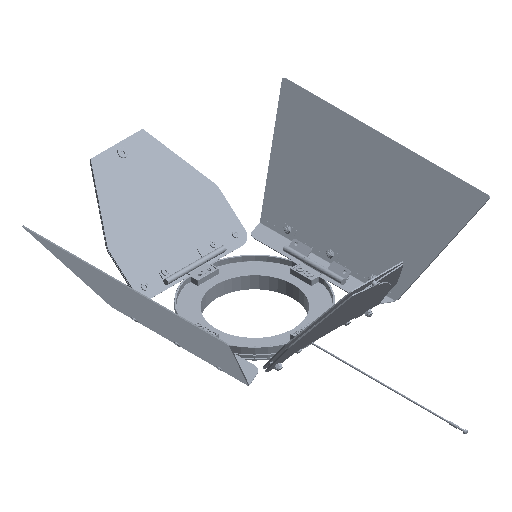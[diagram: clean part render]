
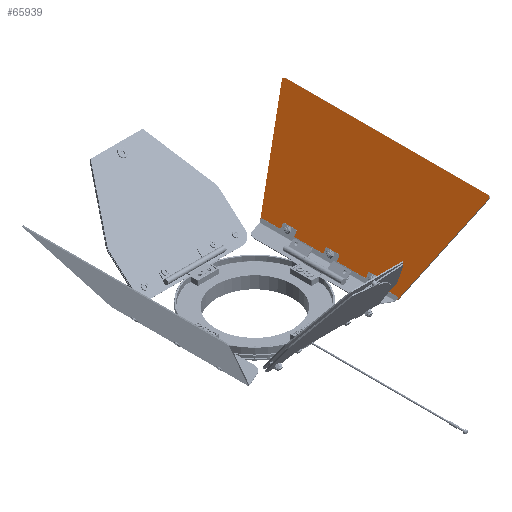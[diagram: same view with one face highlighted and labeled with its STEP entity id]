
A CAD part, isometric view. The second image highlights one B-rep face of the part: STEP entity #65939.
In plain terms, the highlighted planar face has unit normal (-0.805, 0, 0.593) as drawn and (0, -0.866, 0.5) by its records, which use the part's own axes.
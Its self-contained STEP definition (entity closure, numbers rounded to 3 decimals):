
#1660 = VERTEX_POINT ( 'NONE', #62052 ) ;
#3552 = ORIENTED_EDGE ( 'NONE', *, *, #5040, .F. ) ;
#4073 = ORIENTED_EDGE ( 'NONE', *, *, #33344, .T. ) ;
#4165 = ORIENTED_EDGE ( 'NONE', *, *, #61461, .T. ) ;
#4322 = CARTESIAN_POINT ( 'NONE',  ( 72.557, 20.619, 1.891 ) ) ;
#4422 = CARTESIAN_POINT ( 'NONE',  ( 45., 21.991, 4.267 ) ) ;
#4829 = CARTESIAN_POINT ( 'NONE',  ( -45., 22.791, 5.653 ) ) ;
#5040 = EDGE_CURVE ( 'NONE', #42749, #20303, #23721, .T. ) ;
#5266 = DIRECTION ( 'NONE',  ( 0., -0.866, 0.5 ) ) ;
#5385 = DIRECTION ( 'NONE',  ( 0., -0.866, 0.5 ) ) ;
#5713 = AXIS2_PLACEMENT_3D ( 'NONE', #63030, #63316, #30984 ) ;
#5833 = VERTEX_POINT ( 'NONE', #13036 ) ;
#6757 = DIRECTION ( 'NONE',  ( 0., -0.866, 0.5 ) ) ;
#8063 = FACE_BOUND ( 'NONE', #44793, .T. ) ;
#8556 = CIRCLE ( 'NONE', #84248, 1. ) ;
#8728 = ORIENTED_EDGE ( 'NONE', *, *, #64325, .T. ) ;
#9680 = AXIS2_PLACEMENT_3D ( 'NONE', #33356, #6757, #40046 ) ;
#9907 = DIRECTION ( 'NONE',  ( 0., -0.5, -0.866 ) ) ;
#10757 = VERTEX_POINT ( 'NONE', #4322 ) ;
#12202 = EDGE_LOOP ( 'NONE', ( #50568, #80840 ) ) ;
#13036 = CARTESIAN_POINT ( 'NONE',  ( -107.139, 71.791, 90.523 ) ) ;
#13554 = DIRECTION ( 'NONE',  ( 0., -0.866, 0.5 ) ) ;
#14060 = DIRECTION ( 'NONE',  ( -0.344, -0.47, -0.813 ) ) ;
#14374 = VECTOR ( 'NONE', #40069, 1000. ) ;
#16400 = CARTESIAN_POINT ( 'NONE',  ( 0., 23.591, 7.038 ) ) ;
#17193 = CARTESIAN_POINT ( 'NONE',  ( -71.618, 20.291, 1.323 ) ) ;
#17847 = ORIENTED_EDGE ( 'NONE', *, *, #74285, .T. ) ;
#18415 = CIRCLE ( 'NONE', #82977, 2. ) ;
#18757 = EDGE_LOOP ( 'NONE', ( #19878, #43091, #68129, #57714, #8728, #69192, #4073, #4165, #19954, #17847 ) ) ;
#19701 = CIRCLE ( 'NONE', #83357, 1.6 ) ;
#19878 = ORIENTED_EDGE ( 'NONE', *, *, #21134, .T. ) ;
#19954 = ORIENTED_EDGE ( 'NONE', *, *, #66790, .F. ) ;
#20297 = DIRECTION ( 'NONE',  ( 1., 0., 0. ) ) ;
#20303 = VERTEX_POINT ( 'NONE', #49824 ) ;
#21134 = EDGE_CURVE ( 'NONE', #61171, #70301, #64392, .T. ) ;
#21210 = VERTEX_POINT ( 'NONE', #16400 ) ;
#21459 = CARTESIAN_POINT ( 'NONE',  ( 109.017, 70.447, 88.196 ) ) ;
#21749 = CARTESIAN_POINT ( 'NONE',  ( 109.139, 70.791, 88.791 ) ) ;
#22283 = CARTESIAN_POINT ( 'NONE',  ( -72.557, 20.619, 1.891 ) ) ;
#22559 = VECTOR ( 'NONE', #74884, 1000. ) ;
#23468 = DIRECTION ( 'NONE',  ( 1., 0., 0. ) ) ;
#23721 = CIRCLE ( 'NONE', #60017, 1.6 ) ;
#24348 = EDGE_CURVE ( 'NONE', #26623, #54709, #37123, .T. ) ;
#24433 = DIRECTION ( 'NONE',  ( 1., 0., 0. ) ) ;
#24563 = AXIS2_PLACEMENT_3D ( 'NONE', #57693, #83735, #24433 ) ;
#24681 = DIRECTION ( 'NONE',  ( 0., -0.5, -0.866 ) ) ;
#26424 = CARTESIAN_POINT ( 'NONE',  ( -71.618, 20.791, 2.189 ) ) ;
#26623 = VERTEX_POINT ( 'NONE', #77660 ) ;
#26846 = FACE_BOUND ( 'NONE', #12202, .T. ) ;
#27252 = EDGE_LOOP ( 'NONE', ( #3552, #81965 ) ) ;
#28751 = CARTESIAN_POINT ( 'NONE',  ( 0., 22.791, 5.653 ) ) ;
#28866 = AXIS2_PLACEMENT_3D ( 'NONE', #83821, #83255, #56642 ) ;
#29147 = DIRECTION ( 'NONE',  ( 1., 0., 0. ) ) ;
#30212 = VECTOR ( 'NONE', #14060, 1000. ) ;
#30778 = AXIS2_PLACEMENT_3D ( 'NONE', #26424, #65790, #33157 ) ;
#30984 = DIRECTION ( 'NONE',  ( 0., 0.5, 0.866 ) ) ;
#31153 = EDGE_CURVE ( 'NONE', #76799, #10757, #55211, .T. ) ;
#33157 = DIRECTION ( 'NONE',  ( 0., -0.5, -0.866 ) ) ;
#33344 = EDGE_CURVE ( 'NONE', #5833, #46505, #18415, .T. ) ;
#33356 = CARTESIAN_POINT ( 'NONE',  ( 45., 22.791, 5.653 ) ) ;
#33571 = EDGE_CURVE ( 'NONE', #5833, #1660, #38629, .T. ) ;
#34541 = CIRCLE ( 'NONE', #71476, 2. ) ;
#35218 = AXIS2_PLACEMENT_3D ( 'NONE', #53851, #13554, #20297 ) ;
#35448 = DIRECTION ( 'NONE',  ( 0., -0.5, -0.866 ) ) ;
#36393 = EDGE_CURVE ( 'NONE', #70301, #10757, #8556, .T. ) ;
#37123 = CIRCLE ( 'NONE', #9680, 1.6 ) ;
#37203 = DIRECTION ( 'NONE',  ( 0., -0.866, 0.5 ) ) ;
#37732 = ORIENTED_EDGE ( 'NONE', *, *, #24348, .F. ) ;
#38629 = LINE ( 'NONE', #59011, #14374 ) ;
#39966 = DIRECTION ( 'NONE',  ( 1., 0., 0. ) ) ;
#40046 = DIRECTION ( 'NONE',  ( 0., 0.5, 0.866 ) ) ;
#40069 = DIRECTION ( 'NONE',  ( 1., 0., 0. ) ) ;
#40446 = EDGE_CURVE ( 'NONE', #21210, #55182, #19701, .T. ) ;
#40449 = VERTEX_POINT ( 'NONE', #22283 ) ;
#41277 = DIRECTION ( 'NONE',  ( 1., 0., 0. ) ) ;
#42749 = VERTEX_POINT ( 'NONE', #60522 ) ;
#42803 = DIRECTION ( 'NONE',  ( 0., -0.866, 0.5 ) ) ;
#43091 = ORIENTED_EDGE ( 'NONE', *, *, #36393, .T. ) ;
#43307 = CARTESIAN_POINT ( 'NONE',  ( -107.139, 70.791, 88.791 ) ) ;
#43556 = FACE_OUTER_BOUND ( 'NONE', #18757, .T. ) ;
#44345 = EDGE_CURVE ( 'NONE', #76799, #58231, #77827, .T. ) ;
#44793 = EDGE_LOOP ( 'NONE', ( #52511, #37732 ) ) ;
#45834 = CARTESIAN_POINT ( 'NONE',  ( 71.618, 20.791, 2.189 ) ) ;
#46505 = VERTEX_POINT ( 'NONE', #68408 ) ;
#47341 = CARTESIAN_POINT ( 'NONE',  ( 57.327, -0.196, -34.161 ) ) ;
#49824 = CARTESIAN_POINT ( 'NONE',  ( -45., 23.591, 7.038 ) ) ;
#49874 = CARTESIAN_POINT ( 'NONE',  ( -45., 22.791, 5.653 ) ) ;
#50568 = ORIENTED_EDGE ( 'NONE', *, *, #63281, .F. ) ;
#52511 = ORIENTED_EDGE ( 'NONE', *, *, #85154, .F. ) ;
#53851 = CARTESIAN_POINT ( 'NONE',  ( 107.139, 70.791, 88.791 ) ) ;
#54100 = CARTESIAN_POINT ( 'NONE',  ( 0., 20.291, 1.323 ) ) ;
#54709 = VERTEX_POINT ( 'NONE', #4422 ) ;
#55182 = VERTEX_POINT ( 'NONE', #58020 ) ;
#55211 = LINE ( 'NONE', #47341, #30212 ) ;
#56611 = DIRECTION ( 'NONE',  ( 0., -0.866, 0.5 ) ) ;
#56642 = DIRECTION ( 'NONE',  ( 0., -0.5, -0.866 ) ) ;
#57693 = CARTESIAN_POINT ( 'NONE',  ( 0., 10.291, -15.998 ) ) ;
#57714 = ORIENTED_EDGE ( 'NONE', *, *, #44345, .T. ) ;
#58017 = CIRCLE ( 'NONE', #72259, 1.6 ) ;
#58020 = CARTESIAN_POINT ( 'NONE',  ( 0., 21.991, 4.267 ) ) ;
#58231 = VERTEX_POINT ( 'NONE', #21749 ) ;
#58376 = AXIS2_PLACEMENT_3D ( 'NONE', #82830, #42803, #29147 ) ;
#58612 = CARTESIAN_POINT ( 'NONE',  ( -107.139, 70.791, 88.791 ) ) ;
#58963 = DIRECTION ( 'NONE',  ( 0., -0.5, -0.866 ) ) ;
#59011 = CARTESIAN_POINT ( 'NONE',  ( -110., 71.791, 90.523 ) ) ;
#60017 = AXIS2_PLACEMENT_3D ( 'NONE', #49874, #56611, #9907 ) ;
#60210 = VECTOR ( 'NONE', #41277, 1000. ) ;
#60215 = CIRCLE ( 'NONE', #35218, 2. ) ;
#60522 = CARTESIAN_POINT ( 'NONE',  ( -45., 21.991, 4.267 ) ) ;
#61171 = VERTEX_POINT ( 'NONE', #17193 ) ;
#61354 = CIRCLE ( 'NONE', #28866, 1.6 ) ;
#61461 = EDGE_CURVE ( 'NONE', #46505, #65422, #34541, .T. ) ;
#62052 = CARTESIAN_POINT ( 'NONE',  ( 107.139, 71.791, 90.523 ) ) ;
#63030 = CARTESIAN_POINT ( 'NONE',  ( 45., 22.791, 5.653 ) ) ;
#63281 = EDGE_CURVE ( 'NONE', #55182, #21210, #61354, .T. ) ;
#63316 = DIRECTION ( 'NONE',  ( 0., -0.866, 0.5 ) ) ;
#64325 = EDGE_CURVE ( 'NONE', #58231, #1660, #60215, .T. ) ;
#64392 = LINE ( 'NONE', #54100, #60210 ) ;
#65199 = CIRCLE ( 'NONE', #5713, 1.6 ) ;
#65332 = DIRECTION ( 'NONE',  ( 0., -0.866, 0.5 ) ) ;
#65422 = VERTEX_POINT ( 'NONE', #84674 ) ;
#65790 = DIRECTION ( 'NONE',  ( 0., -0.866, 0.5 ) ) ;
#65939 = ADVANCED_FACE ( 'NONE', ( #73803, #8063, #26846, #43556 ), #84300, .T. ) ;
#66790 = EDGE_CURVE ( 'NONE', #40449, #65422, #85191, .T. ) ;
#68129 = ORIENTED_EDGE ( 'NONE', *, *, #31153, .F. ) ;
#68408 = CARTESIAN_POINT ( 'NONE',  ( -109.139, 70.791, 88.791 ) ) ;
#69051 = CARTESIAN_POINT ( 'NONE',  ( -57.327, -0.196, -34.161 ) ) ;
#69192 = ORIENTED_EDGE ( 'NONE', *, *, #33571, .F. ) ;
#70301 = VERTEX_POINT ( 'NONE', #74885 ) ;
#71476 = AXIS2_PLACEMENT_3D ( 'NONE', #58612, #65332, #39966 ) ;
#72259 = AXIS2_PLACEMENT_3D ( 'NONE', #4829, #5385, #24681 ) ;
#73803 = FACE_BOUND ( 'NONE', #27252, .T. ) ;
#74285 = EDGE_CURVE ( 'NONE', #40449, #61171, #76180, .T. ) ;
#74884 = DIRECTION ( 'NONE',  ( -0.344, 0.47, 0.813 ) ) ;
#74885 = CARTESIAN_POINT ( 'NONE',  ( 71.618, 20.291, 1.323 ) ) ;
#75382 = DIRECTION ( 'NONE',  ( 0., -0.866, 0.5 ) ) ;
#76180 = CIRCLE ( 'NONE', #30778, 1. ) ;
#76799 = VERTEX_POINT ( 'NONE', #21459 ) ;
#77660 = CARTESIAN_POINT ( 'NONE',  ( 45., 23.591, 7.038 ) ) ;
#77827 = CIRCLE ( 'NONE', #58376, 2. ) ;
#78015 = EDGE_CURVE ( 'NONE', #20303, #42749, #58017, .T. ) ;
#80840 = ORIENTED_EDGE ( 'NONE', *, *, #40446, .F. ) ;
#81965 = ORIENTED_EDGE ( 'NONE', *, *, #78015, .F. ) ;
#82830 = CARTESIAN_POINT ( 'NONE',  ( 107.139, 70.791, 88.791 ) ) ;
#82977 = AXIS2_PLACEMENT_3D ( 'NONE', #43307, #37203, #23468 ) ;
#83255 = DIRECTION ( 'NONE',  ( 0., -0.866, 0.5 ) ) ;
#83357 = AXIS2_PLACEMENT_3D ( 'NONE', #28751, #75382, #35448 ) ;
#83735 = DIRECTION ( 'NONE',  ( 0., -0.866, 0.5 ) ) ;
#83821 = CARTESIAN_POINT ( 'NONE',  ( 0., 22.791, 5.653 ) ) ;
#84248 = AXIS2_PLACEMENT_3D ( 'NONE', #45834, #5266, #58963 ) ;
#84300 = PLANE ( 'NONE',  #24563 ) ;
#84674 = CARTESIAN_POINT ( 'NONE',  ( -109.017, 70.447, 88.196 ) ) ;
#85154 = EDGE_CURVE ( 'NONE', #54709, #26623, #65199, .T. ) ;
#85191 = LINE ( 'NONE', #69051, #22559 ) ;
